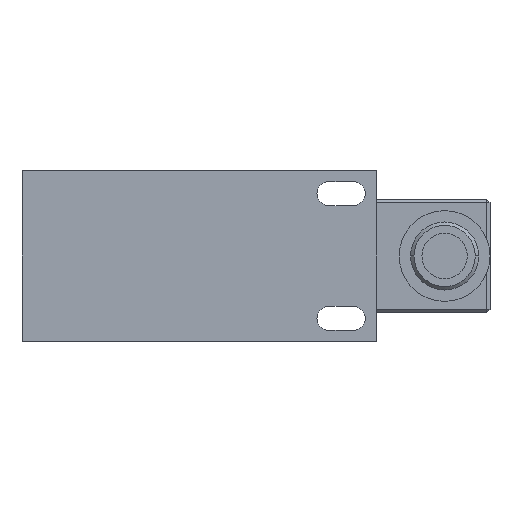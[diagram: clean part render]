
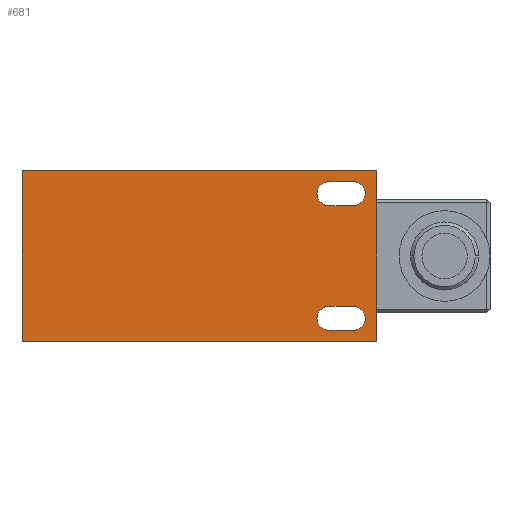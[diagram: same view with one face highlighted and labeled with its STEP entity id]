
A CAD part, front view. The second image highlights one B-rep face of the part: STEP entity #681.
In plain terms, the highlighted planar face has unit normal (0, -1, 0).
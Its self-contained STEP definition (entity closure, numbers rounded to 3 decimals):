
#66 = CARTESIAN_POINT ( 'NONE',  ( 62.5, 0., -15. ) ) ;
#72 = ORIENTED_EDGE ( 'NONE', *, *, #109, .T. ) ;
#84 = AXIS2_PLACEMENT_3D ( 'NONE', #632, #455, #134 ) ;
#92 = DIRECTION ( 'NONE',  ( -1., 0., 0. ) ) ;
#106 = VERTEX_POINT ( 'NONE', #1180 ) ;
#109 = EDGE_CURVE ( 'NONE', #807, #1622, #660, .T. ) ;
#110 = CARTESIAN_POINT ( 'NONE',  ( 58.4, 0., -13.1 ) ) ;
#115 = EDGE_LOOP ( 'NONE', ( #2058, #163, #367, #1675 ) ) ;
#126 = ORIENTED_EDGE ( 'NONE', *, *, #2050, .T. ) ;
#134 = DIRECTION ( 'NONE',  ( 0., 0., 1. ) ) ;
#138 = CARTESIAN_POINT ( 'NONE',  ( 58.4, 0., 13.1 ) ) ;
#163 = ORIENTED_EDGE ( 'NONE', *, *, #808, .T. ) ;
#164 = LINE ( 'NONE', #1083, #1226 ) ;
#212 = EDGE_LOOP ( 'NONE', ( #369, #819, #72, #126 ) ) ;
#216 = ORIENTED_EDGE ( 'NONE', *, *, #1138, .F. ) ;
#224 = CARTESIAN_POINT ( 'NONE',  ( 58.4, 0., -11. ) ) ;
#231 = CARTESIAN_POINT ( 'NONE',  ( 54.1, 0., -13.1 ) ) ;
#270 = DIRECTION ( 'NONE',  ( 0., -1., 0. ) ) ;
#273 = VERTEX_POINT ( 'NONE', #1415 ) ;
#342 = LINE ( 'NONE', #1345, #973 ) ;
#362 = DIRECTION ( 'NONE',  ( 0., 1., 0. ) ) ;
#367 = ORIENTED_EDGE ( 'NONE', *, *, #1413, .T. ) ;
#369 = ORIENTED_EDGE ( 'NONE', *, *, #1076, .T. ) ;
#383 = CARTESIAN_POINT ( 'NONE',  ( 0., 0., 15. ) ) ;
#410 = ORIENTED_EDGE ( 'NONE', *, *, #578, .F. ) ;
#412 = CARTESIAN_POINT ( 'NONE',  ( 0., 0., 15. ) ) ;
#424 = LINE ( 'NONE', #383, #2111 ) ;
#455 = DIRECTION ( 'NONE',  ( 0., 1., 0. ) ) ;
#463 = DIRECTION ( 'NONE',  ( -1., 0., 0. ) ) ;
#507 = AXIS2_PLACEMENT_3D ( 'NONE', #2012, #1499, #2007 ) ;
#513 = DIRECTION ( 'NONE',  ( 1., 0., 0. ) ) ;
#517 = CIRCLE ( 'NONE', #84, 2.1 ) ;
#520 = CIRCLE ( 'NONE', #1476, 2.1 ) ;
#575 = VECTOR ( 'NONE', #602, 1000. ) ;
#576 = CARTESIAN_POINT ( 'NONE',  ( 0., 0., -15. ) ) ;
#578 = EDGE_CURVE ( 'NONE', #1445, #1200, #424, .T. ) ;
#602 = DIRECTION ( 'NONE',  ( -1., 0., 0. ) ) ;
#632 = CARTESIAN_POINT ( 'NONE',  ( 54.1, 0., -11. ) ) ;
#641 = ORIENTED_EDGE ( 'NONE', *, *, #1201, .F. ) ;
#643 = LINE ( 'NONE', #110, #575 ) ;
#648 = CARTESIAN_POINT ( 'NONE',  ( 54.1, 0., 13.1 ) ) ;
#660 = CIRCLE ( 'NONE', #507, 2.1 ) ;
#680 = VERTEX_POINT ( 'NONE', #1206 ) ;
#681 = ADVANCED_FACE ( 'NONE', ( #905, #1388, #846 ), #1241, .T. ) ;
#685 = LINE ( 'NONE', #1336, #791 ) ;
#691 = DIRECTION ( 'NONE',  ( 0., 0., 1. ) ) ;
#733 = ORIENTED_EDGE ( 'NONE', *, *, #830, .F. ) ;
#764 = VECTOR ( 'NONE', #2063, 1000. ) ;
#783 = CARTESIAN_POINT ( 'NONE',  ( 0., 0., -15. ) ) ;
#791 = VECTOR ( 'NONE', #513, 1000. ) ;
#807 = VERTEX_POINT ( 'NONE', #2065 ) ;
#808 = EDGE_CURVE ( 'NONE', #273, #1981, #643, .T. ) ;
#819 = ORIENTED_EDGE ( 'NONE', *, *, #1509, .T. ) ;
#823 = VECTOR ( 'NONE', #1591, 1000. ) ;
#830 = EDGE_CURVE ( 'NONE', #1200, #1902, #1065, .T. ) ;
#841 = VECTOR ( 'NONE', #92, 1000. ) ;
#846 = FACE_OUTER_BOUND ( 'NONE', #1078, .T. ) ;
#887 = DIRECTION ( 'NONE',  ( 0., 0., -1. ) ) ;
#905 = FACE_BOUND ( 'NONE', #212, .T. ) ;
#973 = VECTOR ( 'NONE', #1034, 1000. ) ;
#1013 = LINE ( 'NONE', #138, #764 ) ;
#1034 = DIRECTION ( 'NONE',  ( 0., 0., -1. ) ) ;
#1065 = LINE ( 'NONE', #1570, #823 ) ;
#1076 = EDGE_CURVE ( 'NONE', #1633, #106, #520, .T. ) ;
#1078 = EDGE_LOOP ( 'NONE', ( #410, #216, #641, #733 ) ) ;
#1083 = CARTESIAN_POINT ( 'NONE',  ( 54.1, 0., 8.9 ) ) ;
#1086 = CARTESIAN_POINT ( 'NONE',  ( 58.4, 0., 11. ) ) ;
#1138 = EDGE_CURVE ( 'NONE', #1165, #1445, #1453, .T. ) ;
#1165 = VERTEX_POINT ( 'NONE', #66 ) ;
#1180 = CARTESIAN_POINT ( 'NONE',  ( 58.4, 0., 8.9 ) ) ;
#1200 = VERTEX_POINT ( 'NONE', #412 ) ;
#1201 = EDGE_CURVE ( 'NONE', #1902, #1165, #342, .T. ) ;
#1206 = CARTESIAN_POINT ( 'NONE',  ( 58.4, 0., -8.9 ) ) ;
#1226 = VECTOR ( 'NONE', #463, 1000. ) ;
#1241 = PLANE ( 'NONE',  #1879 ) ;
#1336 = CARTESIAN_POINT ( 'NONE',  ( 54.1, 0., -8.9 ) ) ;
#1345 = CARTESIAN_POINT ( 'NONE',  ( 62.5, 0., 15. ) ) ;
#1388 = FACE_BOUND ( 'NONE', #115, .T. ) ;
#1397 = CIRCLE ( 'NONE', #1740, 2.1 ) ;
#1413 = EDGE_CURVE ( 'NONE', #1981, #1985, #517, .T. ) ;
#1415 = CARTESIAN_POINT ( 'NONE',  ( 58.4, 0., -13.1 ) ) ;
#1445 = VERTEX_POINT ( 'NONE', #783 ) ;
#1453 = LINE ( 'NONE', #2041, #841 ) ;
#1476 = AXIS2_PLACEMENT_3D ( 'NONE', #1086, #1912, #1745 ) ;
#1499 = DIRECTION ( 'NONE',  ( 0., 1., 0. ) ) ;
#1509 = EDGE_CURVE ( 'NONE', #106, #807, #164, .T. ) ;
#1520 = CARTESIAN_POINT ( 'NONE',  ( 54.1, 0., -8.9 ) ) ;
#1570 = CARTESIAN_POINT ( 'NONE',  ( 0., 0., 15. ) ) ;
#1591 = DIRECTION ( 'NONE',  ( 1., 0., 0. ) ) ;
#1622 = VERTEX_POINT ( 'NONE', #648 ) ;
#1629 = CARTESIAN_POINT ( 'NONE',  ( 58.4, 0., 13.1 ) ) ;
#1633 = VERTEX_POINT ( 'NONE', #1629 ) ;
#1675 = ORIENTED_EDGE ( 'NONE', *, *, #1804, .T. ) ;
#1676 = CARTESIAN_POINT ( 'NONE',  ( 62.5, 0., 15. ) ) ;
#1740 = AXIS2_PLACEMENT_3D ( 'NONE', #224, #362, #1987 ) ;
#1745 = DIRECTION ( 'NONE',  ( 0., 0., -1. ) ) ;
#1804 = EDGE_CURVE ( 'NONE', #1985, #680, #685, .T. ) ;
#1806 = EDGE_CURVE ( 'NONE', #680, #273, #1397, .T. ) ;
#1879 = AXIS2_PLACEMENT_3D ( 'NONE', #576, #270, #887 ) ;
#1902 = VERTEX_POINT ( 'NONE', #1676 ) ;
#1912 = DIRECTION ( 'NONE',  ( 0., 1., 0. ) ) ;
#1981 = VERTEX_POINT ( 'NONE', #231 ) ;
#1985 = VERTEX_POINT ( 'NONE', #1520 ) ;
#1987 = DIRECTION ( 'NONE',  ( 0., 0., 1. ) ) ;
#2007 = DIRECTION ( 'NONE',  ( 0., 0., -1. ) ) ;
#2012 = CARTESIAN_POINT ( 'NONE',  ( 54.1, 0., 11. ) ) ;
#2041 = CARTESIAN_POINT ( 'NONE',  ( 0., 0., -15. ) ) ;
#2050 = EDGE_CURVE ( 'NONE', #1622, #1633, #1013, .T. ) ;
#2058 = ORIENTED_EDGE ( 'NONE', *, *, #1806, .T. ) ;
#2063 = DIRECTION ( 'NONE',  ( 1., 0., 0. ) ) ;
#2065 = CARTESIAN_POINT ( 'NONE',  ( 54.1, 0., 8.9 ) ) ;
#2111 = VECTOR ( 'NONE', #691, 1000. ) ;
